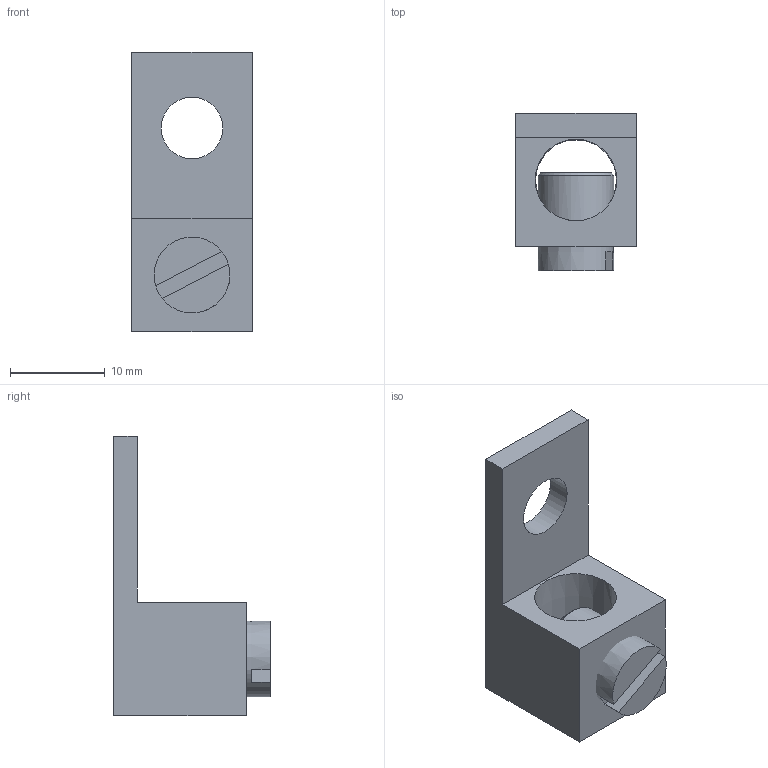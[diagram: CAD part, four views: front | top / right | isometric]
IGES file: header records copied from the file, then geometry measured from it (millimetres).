
Global section: file name: No Iges File Name specified; native system: AutoDesk Inventor R5.0; preprocessor: AutoDesk Inventor Iges Exporter R5.0; author: No Author specified; organization: No Organization specified; date: 20040123.190232; units: inch
Bounding box: 12.75 x 16.54 x 29.5 mm (x, y, z)
Surface area: 2102.8 mm2 (no closed solid volume)
Topology: 0 solids, 0 shells, 19 faces, 83 edges, 78 vertices
Faces by surface type: plane 14, revolution 3, bspline 2
